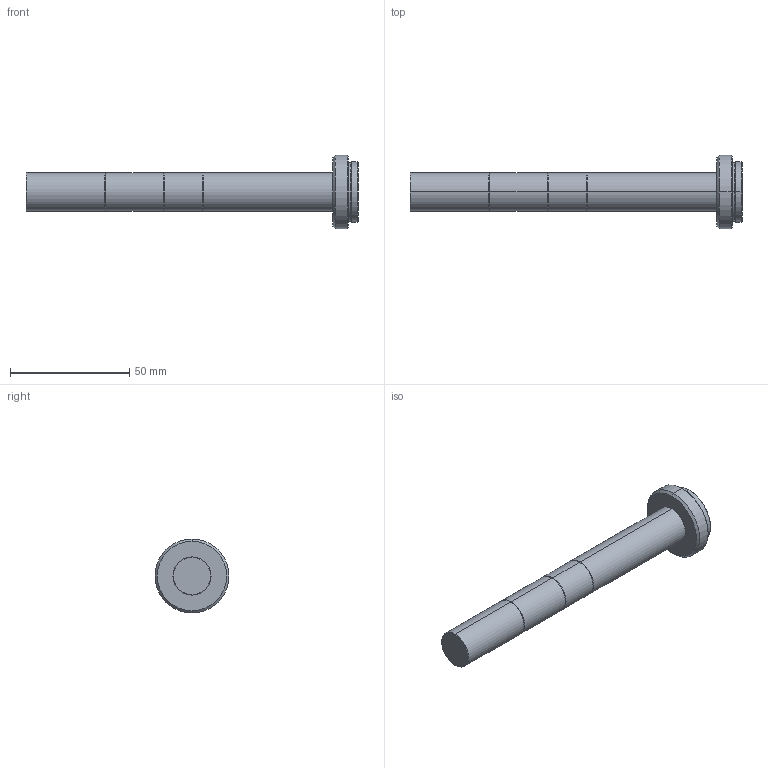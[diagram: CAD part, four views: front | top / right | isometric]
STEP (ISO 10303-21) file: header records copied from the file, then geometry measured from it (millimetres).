
FILE_DESCRIPTION (( 'STEP AP214' ), '1' );
FILE_NAME ('VS-TC8-110-LD.STEP', '2019-06-27T05:19:43', ( '' ), ( '' ), 'SwSTEP 2.0', 'SolidWorks 2018', '' );
FILE_SCHEMA (( 'AUTOMOTIVE_DESIGN' ));
Length unit declared in the file: millimetre
Products named in the file (1): VS-TC8-110-LD
Bounding box: 139.13 x 31 x 31 mm (x, y, z)
Volume: 32684.3 mm3; surface area: 8880.3 mm2
Topology: 1 solids, 1 shells, 40 faces, 78 edges, 42 vertices
Faces by surface type: cone 22, cylinder 14, plane 4
Entity records: 1038 total; most frequent: DIRECTION 202, CARTESIAN_POINT 161, ORIENTED_EDGE 156, AXIS2_PLACEMENT_3D 83, EDGE_CURVE 78, VERTEX_POINT 42, EDGE_LOOP 42, CIRCLE 42
